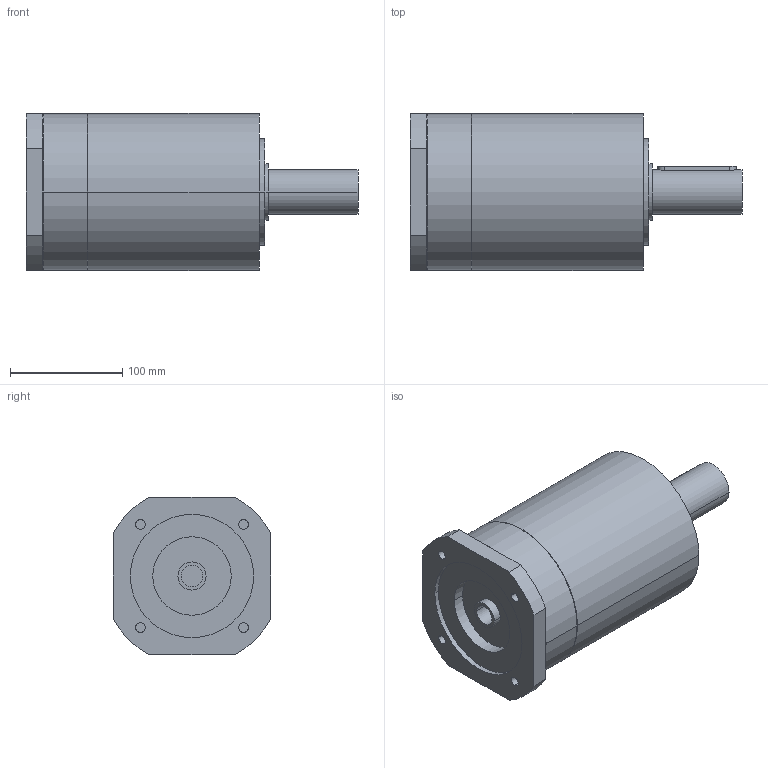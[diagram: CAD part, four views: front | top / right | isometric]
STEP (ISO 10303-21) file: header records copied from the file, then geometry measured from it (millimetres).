
FILE_DESCRIPTION(('CoCreate Modeling STEP Export'),'2;1');
FILE_NAME('GPR150_ig-9-12-16-20-28-35_40_B14_19_P04.stp','2014-08-19T17:03:16',(''),(''),'CoCreate Modeling STEP processor for AP214 (Solid Model)','CoCreate Modeling 16.00C 25-Feb-2009 (C) Parametric Technology GmbH','');
FILE_SCHEMA(('AUTOMOTIVE_DESIGN { 1 0 10303 214 1 1 1 1 }'));
Length unit declared in the file: millimetre
Products named in the file (2): GPR150_ig-9-12-16-20-28-35_40_B14_19_P04
Assembly tree (1 placements, depth 2):
  GPR150_ig-9-12-16-20-28-35_40_B14_19_P04
    GPR150_ig-9-12-16-20-28-35_40_B14_19_P04
Bounding box: 296 x 140 x 140 mm (x, y, z)
Volume: 3274710 mm3; surface area: 155741.8 mm2
Topology: 1 solids, 1 shells, 86 faces, 232 edges, 160 vertices
Faces by surface type: cylinder 50, plane 30, cone 6
Entity records: 2346 total; most frequent: ORIENTED_EDGE 460, CARTESIAN_POINT 443, DIRECTION 316, EDGE_CURVE 230, VERTEX_POINT 160, AXIS2_PLACEMENT_3D 121, EDGE_LOOP 108, FACE_OUTER_BOUND 86
